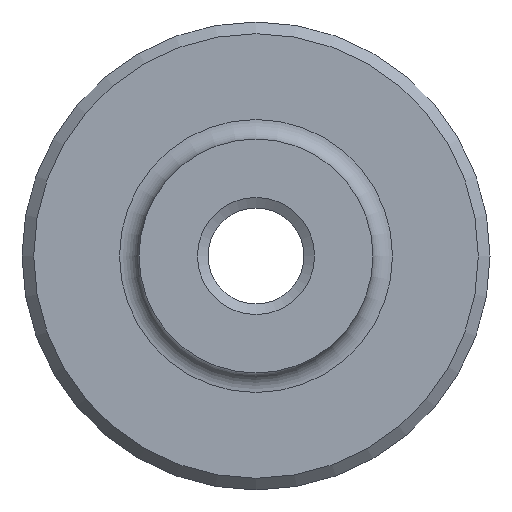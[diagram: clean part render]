
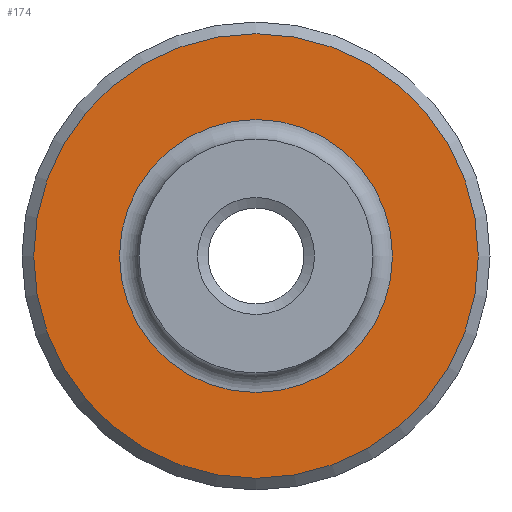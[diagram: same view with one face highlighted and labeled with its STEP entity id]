
A CAD part, left-side view. The second image highlights one B-rep face of the part: STEP entity #174.
In plain terms, the highlighted planar face has unit normal (-1, 0, 0).
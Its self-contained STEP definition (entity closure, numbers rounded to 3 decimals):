
#45=FACE_BOUND('',#68,.T.);
#48=PLANE('',#213);
#57=FACE_OUTER_BOUND('',#67,.T.);
#67=EDGE_LOOP('',(#153));
#68=EDGE_LOOP('',(#154));
#90=CIRCLE('',#209,5.7);
#93=CIRCLE('',#214,3.5);
#107=VERTEX_POINT('',#304);
#110=VERTEX_POINT('',#314);
#122=EDGE_CURVE('',#107,#107,#90,.T.);
#126=EDGE_CURVE('',#110,#110,#93,.T.);
#153=ORIENTED_EDGE('',*,*,#122,.F.);
#154=ORIENTED_EDGE('',*,*,#126,.T.);
#174=ADVANCED_FACE('',(#57,#45),#48,.T.);
#209=AXIS2_PLACEMENT_3D('',#306,#251,#252);
#213=AXIS2_PLACEMENT_3D('',#313,#260,#261);
#214=AXIS2_PLACEMENT_3D('',#315,#262,#263);
#251=DIRECTION('center_axis',(1.,0.,0.));
#252=DIRECTION('ref_axis',(0.,-1.,0.));
#260=DIRECTION('center_axis',(-1.,0.,0.));
#261=DIRECTION('ref_axis',(0.,0.,1.));
#262=DIRECTION('center_axis',(1.,0.,0.));
#263=DIRECTION('ref_axis',(0.,1.,0.));
#304=CARTESIAN_POINT('',(-2.5,5.7,0.));
#306=CARTESIAN_POINT('Origin',(-2.5,0.,
0.));
#313=CARTESIAN_POINT('Origin',(-2.5,4.75,0.));
#314=CARTESIAN_POINT('',(-2.5,0.,3.5));
#315=CARTESIAN_POINT('Origin',(-2.5,0.,
0.));
